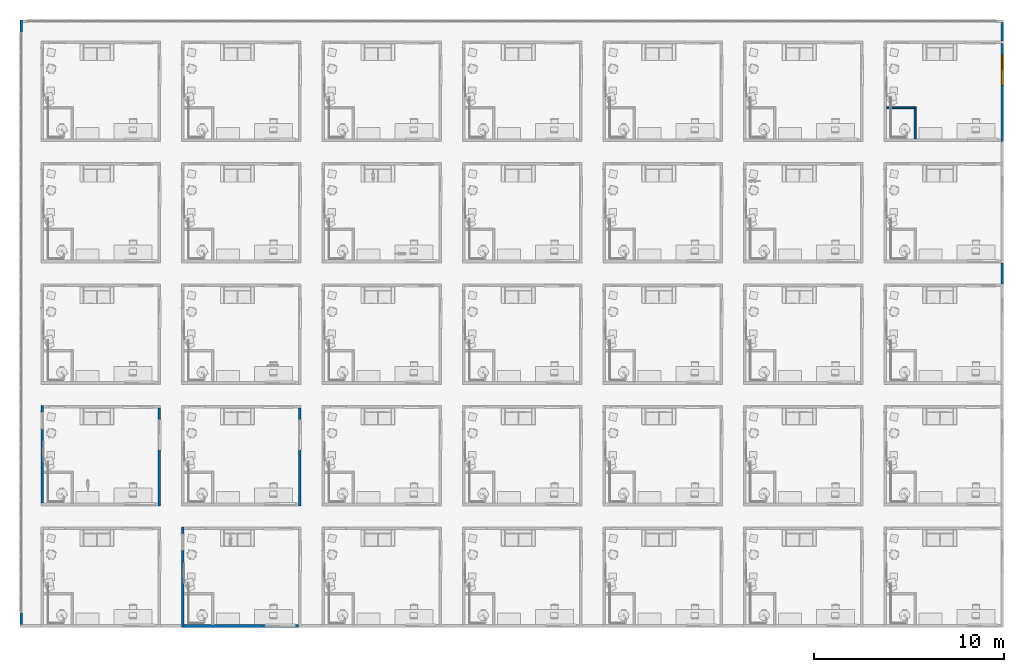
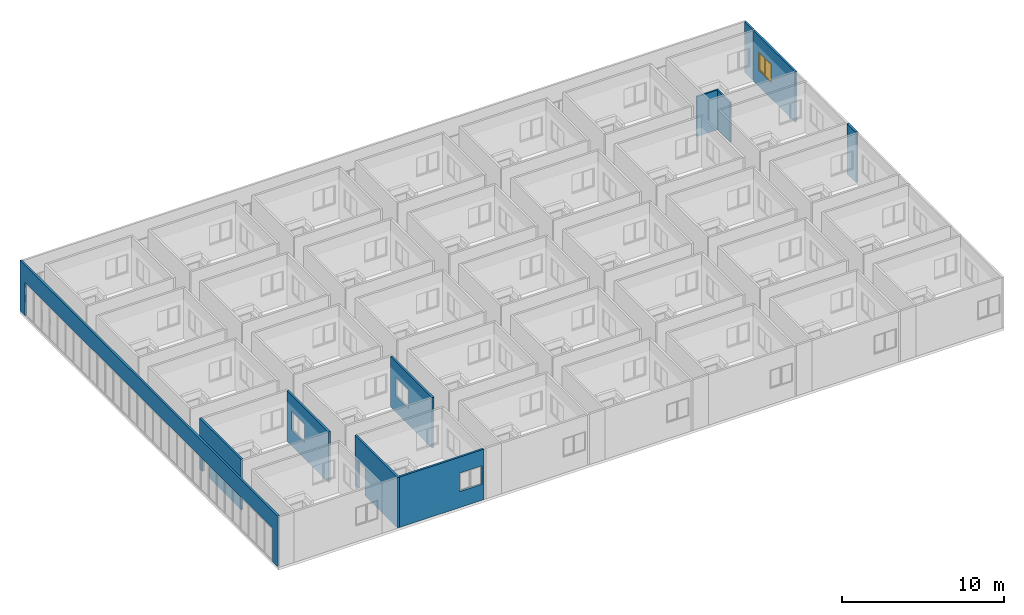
# One storey, part 11 of 71: 11 walls, 1 window, 7 openings.
"""IFC4 building model written with IfcOpenShell, lengths in centimetres."""

from ifc_helpers import new_model, entity, si_unit, converted_unit, derived_unit, direction, frame, origin, place, context, subcontext, project, spatial, indexed_curve, outline, extrude, polygons, source, transform, mapped, material, constituent, constituent_set, type_object, type_shapes, element, fill, save


model = new_model("IFC4")

# Units and contexts
model_context = context("Model", 3, precision=0.001, world=origin(), true_north=direction((6.123233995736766e-17, 1.0)))
body_context = subcontext(model_context, "Body", "Model", "MODEL_VIEW")
ifc_project = project(units=[si_unit("LENGTHUNIT", "METRE", prefix="CENTI"), si_unit("AREAUNIT", "SQUARE_METRE"), si_unit("VOLUMEUNIT", "CUBIC_METRE"), derived_unit("THERMALTRANSMITTANCEUNIT", [(si_unit("MASSUNIT", "GRAM", prefix="KILO"), 1), (si_unit("THERMODYNAMICTEMPERATUREUNIT", "KELVIN"), -1), (si_unit("TIMEUNIT", "SECOND"), -3)]), converted_unit("PLANEANGLEUNIT", "DEGREE", entity("IfcPlaneAngleMeasure", 0.017453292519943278), si_unit("PLANEANGLEUNIT", "RADIAN"), dimensions=[0, 0, 0, 0, 0, 0, 0]), derived_unit("MASSDENSITYUNIT", [(si_unit("MASSUNIT", "GRAM", prefix="KILO"), 1), (si_unit("LENGTHUNIT", "METRE"), -3)]), derived_unit("VAPORPERMEABILITYUNIT", [(si_unit("LENGTHUNIT", "METRE"), -1), (si_unit("TIMEUNIT", "SECOND"), 1)]), derived_unit("USERDEFINED", [(si_unit("MASSUNIT", "GRAM", prefix="KILO"), 1), (si_unit("TIMEUNIT", "SECOND"), -3), (si_unit("LENGTHUNIT", "METRE"), 3), (si_unit("ELECTRICCURRENTUNIT", "AMPERE"), -2)]), derived_unit("SPECIFICHEATCAPACITYUNIT", [(si_unit("THERMODYNAMICTEMPERATUREUNIT", "KELVIN"), -1), (si_unit("LENGTHUNIT", "METRE"), 2), (si_unit("TIMEUNIT", "SECOND"), -2)]), derived_unit("THERMALCONDUCTANCEUNIT", [(si_unit("MASSUNIT", "GRAM", prefix="KILO"), 1), (si_unit("THERMODYNAMICTEMPERATUREUNIT", "KELVIN"), -1), (si_unit("TIMEUNIT", "SECOND"), -3), (si_unit("LENGTHUNIT", "METRE"), 1)]), si_unit("PRESSUREUNIT", "PASCAL"), derived_unit("MODULUSOFELASTICITYUNIT", [(si_unit("MASSUNIT", "GRAM", prefix="KILO"), 1), (si_unit("LENGTHUNIT", "METRE"), -1), (si_unit("TIMEUNIT", "SECOND"), -2)]), derived_unit("THERMALEXPANSIONCOEFFICIENTUNIT", [(si_unit("THERMODYNAMICTEMPERATUREUNIT", "KELVIN"), -1)])], contexts=[model_context])

# Site, building, storey
site_placement = place(None, origin())
site = spatial("IfcSite", under=ifc_project, at=site_placement, Name="Default", CompositionType="ELEMENT")
building_placement = place(site_placement, origin())
building = spatial("IfcBuilding", under=site, at=building_placement, Name="IDS Escape Game Building", CompositionType="ELEMENT")
storey_placement = place(building_placement, frame((0.0, 0.0, 1200.0)))
storey = spatial("IfcBuildingStorey", under=building, at=storey_placement, Name="03_Third Floor", CompositionType="ELEMENT", Elevation=1200.0)

# Wall, opening
ifc_material_1 = material(Name="ARC_FME.g2_Fg2 Masonry_00_gen_BERSnl", Category="g - klei")
wall_type_1 = type_object("IfcWallType", Name="Basic Wall:ARC_22.10_WA_LB_SB14_gen_BERSnl", PredefinedType="STANDARD")
wall_1_placement = place(storey_placement, frame((745.0, 6.0, 0.0)))
wall_1 = element("IfcWall", 1, at=wall_1_placement, inside=storey, type_object=wall_type_1, material=ifc_material_1, Name="Basic Wall:ARC_22.10_WA_LB_SB14_gen_BERSnl", ObjectType="Basic Wall:ARC_22.10_WA_LB_SB14_gen_BERSnl", PredefinedType="NOTDEFINED", context=body_context, shape_type="Tessellation", body=[
    polygons([(0.0, -7.000000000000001, 0.0), (599.9999999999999, -7.000000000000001, 0.0), (599.9999999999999, -7.000000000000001, 380.0), (0.0, -7.000000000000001, 380.0), (424.99999999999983, -7.000000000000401, 120.00000000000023), (424.99999999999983, -7.000000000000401, 260.0), (584.9999999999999, -7.000000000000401, 260.0), (584.9999999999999, -7.0000000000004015, 120.00000000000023), (425.00000000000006, 6.999999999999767, 260.00000000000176), (424.99999999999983, 6.999999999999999, 120.00000000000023), (584.9999999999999, 6.999999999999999, 120.00000000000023), (584.9999999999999, 6.999999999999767, 260.00000000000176), (0.0, 6.999999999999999, 0.0), (0.0, 6.999999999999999, 380.0), (599.9999999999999, 6.999999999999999, 380.0), (599.9999999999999, 6.999999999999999, 0.0), (155.00000000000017, 6.999999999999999, 0.0), (145.00000000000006, 6.999999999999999, 0.0)], [[[1, 2, 3, 4], [5, 6, 7, 8]], [[13, 14, 15, 16, 17, 18], [9, 10, 11, 12]], [[2, 1, 13, 18, 17, 16]], [[4, 3, 15, 14]], [[8, 11, 10, 5]], [[6, 5, 10, 9]], [[11, 8, 7, 12]], [[6, 9, 12, 7]], [[1, 4, 14, 13]], [[3, 2, 16, 15]]], closed=True),
])
opening_1_placement = place(wall_1_placement, frame((-745.0, -6.0, 120.0)))
element("IfcOpeningElement", 2, at=opening_1_placement, cuts=wall_1, Name="Basic Wall:ARC_22.10_WA_LB_SB14_gen_BERSnl", PredefinedType="OPENING", context=body_context, shape_type="Tessellation", body=[
    polygons([(1170.0, -1.000000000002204, 2.2737367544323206e-13), (1170.0, -1.000000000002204, -1.0), (1170.0, -6.000000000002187, -1.0), (1170.0, -6.000000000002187, 2.2737367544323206e-13), (1330.0, -1.0000000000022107, 2.2737367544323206e-13), (1330.0, -6.000000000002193, 2.2737367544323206e-13), (1330.0, -6.000000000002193, -1.0), (1330.0, -1.0000000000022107, -1.0), (1175.0, -1.0000000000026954, 0.0), (1324.9999999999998, -1.0000000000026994, 0.0), (1324.9999999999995, -6.000000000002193, 2.2737367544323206e-13), (1324.9999999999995, -6.000000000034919, 135.0), (1175.0, -6.000000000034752, 135.0), (1175.0, -6.000000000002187, 2.2737367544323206e-13), (1170.0, 18.03682513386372, 2.2737367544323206e-13), (1170.0, -1.0000000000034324, 2.2737367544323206e-13), (1170.0, -1.0000000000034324, 140.00000000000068), (1170.0, 18.03682513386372, 140.00000000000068), (1330.0, 18.03682513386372, 140.0), (1330.0, -1.0000000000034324, 140.0), (1330.0, -1.000000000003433, 2.2737367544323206e-13), (1330.0, 18.03682513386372, 2.2737367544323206e-13), (1175.0, -1.000000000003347, 135.0), (1324.9999999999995, -1.0000000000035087, 135.0)], [[[1, 2, 3, 4]], [[5, 6, 7, 8]], [[1, 9, 10, 5, 8, 2]], [[2, 8, 7, 3]], [[3, 7, 6, 11, 12, 13, 14, 4]], [[4, 14, 9, 1]], [[15, 16, 17, 18]], [[19, 20, 21, 22]], [[18, 17, 20, 19]], [[18, 19, 22, 15]], [[17, 16, 9, 23, 24, 10, 21, 20]], [[22, 21, 10, 9, 16, 15]], [[11, 10, 24, 12]], [[13, 23, 9, 14]], [[12, 24, 23, 13]], [[5, 10, 11, 6]]], closed=True),
])

wall_2_placement = place(storey_placement, frame((738.0, 527.0, 0.0), z_axis=(0.0, 0.0, 1.0), x_axis=(0.0, -1.0, 0.0)))
wall_2 = element("IfcWall", 3, at=wall_2_placement, inside=storey, type_object=wall_type_1, material=ifc_material_1, Name="Basic Wall:ARC_22.10_WA_LB_SB14_gen_BERSnl", ObjectType="Basic Wall:ARC_22.10_WA_LB_SB14_gen_BERSnl", PredefinedType="NOTDEFINED", context=body_context, shape_type="Tessellation", body=[
    polygons([(527.9999999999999, -6.9999999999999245, 380.0), (514.0000000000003, -6.9999999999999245, 380.0), (0.0, -6.9999999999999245, 380.0), (0.0, -6.9999999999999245, 0.0), (35.99999999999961, -6.9999999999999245, 0.0), (35.99999999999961, -6.9999999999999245, 215.00000000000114), (125.99999999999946, -6.9999999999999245, 215.00000000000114), (125.99999999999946, -6.9999999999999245, 0.0), (514.0000000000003, -6.9999999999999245, 0.0), (527.9999999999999, -6.9999999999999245, 0.0), (0.0, 7.000000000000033, 380.0), (13.999999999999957, 7.000000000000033, 380.0), (513.9999999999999, 7.000000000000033, 380.0), (527.9999999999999, 7.000000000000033, 380.0), (527.9999999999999, 7.000000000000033, 0.0), (513.9999999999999, 7.000000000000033, 0.0), (355.99999999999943, 7.000000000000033, 0.0), (345.99999999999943, 7.000000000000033, 0.0), (125.99999999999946, 7.000000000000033, 0.0), (125.99999999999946, 7.000000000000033, 215.00000000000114), (35.99999999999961, 7.000000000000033, 215.00000000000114), (35.99999999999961, 7.000000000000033, 0.0), (13.999999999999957, 7.000000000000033, 0.0), (0.0, 7.000000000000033, 0.0)], [[[1, 2, 3, 4, 5, 6, 7, 8, 9, 10]], [[11, 12, 13, 14, 15, 16, 17, 18, 19, 20, 21, 22, 23, 24]], [[4, 24, 23, 22, 5]], [[3, 2, 1, 14, 13, 12, 11]], [[21, 6, 5, 22]], [[7, 20, 19, 8]], [[6, 21, 20, 7]], [[4, 3, 11, 24]], [[1, 10, 15, 14]], [[15, 10, 9, 8, 19, 18, 17, 16]]], closed=True),
])
opening_2_placement = place(wall_2_placement, frame((527.0, -738.0, 0.0), z_axis=(0.0, 0.0, 1.0), x_axis=(0.0, 1.0, 0.0)))
element("IfcOpeningElement", 4, at=opening_2_placement, cuts=wall_2, Name="Basic Wall:ARC_22.10_WA_LB_SB14_gen_BERSnl", PredefinedType="OPENING", context=body_context, shape_type="SweptSolid", body=[
    extrude(outline(indexed_curve([(-137.49999999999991, -44.99999999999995), (137.49999999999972, -44.99999999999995), (137.49999999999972, 44.99999999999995), (-137.49999999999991, 45.0), (-137.49999999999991, -44.99999999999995)], self_intersect=False)), frame((648.0, 446.0, 77.50000000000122), z_axis=(1.0, 0.0, 0.0), x_axis=(0.0, 0.0, 1.0)), (0.0, 0.0, 1.0), 165.99999999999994),
])

wall_3_placement = place(storey_placement, frame((0.0, 1165.0, 0.0), z_axis=(0.0, 0.0, 1.0), x_axis=(0.0, -1.0, 0.0)))
wall_3 = element("IfcWall", 5, at=wall_3_placement, inside=storey, type_object=wall_type_1, material=ifc_material_1, Name="Basic Wall:ARC_22.10_WA_LB_SB14_gen_BERSnl", ObjectType="Basic Wall:ARC_22.10_WA_LB_SB14_gen_BERSnl", PredefinedType="NOTDEFINED", context=body_context, shape_type="Tessellation", body=[
    polygons([(514.0000000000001, -7.0, 380.0), (0.0, -7.0, 380.0), (0.0, -7.0, 0.0), (35.99999999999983, -7.0, 0.0), (35.99999999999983, -7.000000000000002, 215.00000000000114), (125.99999999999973, -7.000000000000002, 215.00000000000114), (125.99999999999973, -7.0, 0.0), (514.0000000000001, -7.0, 0.0), (0.0, 7.0, 380.0), (14.000000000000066, 7.0, 380.0), (514.0000000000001, 7.0, 380.0), (514.0000000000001, 7.0, 0.0), (355.99999999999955, 7.0, 0.0), (345.9999999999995, 7.0, 0.0), (125.99999999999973, 7.0, 0.0), (125.99999999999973, 6.9999999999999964, 215.00000000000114), (35.99999999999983, 7.000000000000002, 215.00000000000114), (35.99999999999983, 7.0, 0.0), (14.000000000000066, 7.0, 0.0), (0.0, 7.0, 0.0)], [[[1, 2, 3, 4, 5, 6, 7, 8]], [[9, 10, 11, 12, 13, 14, 15, 16, 17, 18, 19, 20]], [[3, 20, 19, 18, 4]], [[2, 1, 11, 10, 9]], [[17, 5, 4, 18]], [[6, 16, 15, 7]], [[5, 17, 16, 6]], [[3, 2, 9, 20]], [[1, 8, 12, 11]], [[12, 8, 7, 15, 14, 13]]], closed=True),
])
opening_3_placement = place(wall_3_placement, frame((1165.0, 0.0, 0.0), z_axis=(0.0, 0.0, 1.0), x_axis=(0.0, 1.0, 0.0)))
element("IfcOpeningElement", 6, at=opening_3_placement, cuts=wall_3, Name="Basic Wall:ARC_22.10_WA_LB_SB14_gen_BERSnl", PredefinedType="OPENING", context=body_context, shape_type="SweptSolid", body=[
    extrude(outline(indexed_curve([(-137.49999999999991, -44.99999999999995), (137.49999999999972, -44.99999999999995), (137.49999999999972, 44.99999999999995), (-137.49999999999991, 44.99999999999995), (-137.49999999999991, -44.99999999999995)], self_intersect=False)), frame((-90.0, 1084.0, 77.50000000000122), z_axis=(1.0, 0.0, 0.0), x_axis=(0.0, 0.0, 1.0)), (0.0, 0.0, 1.0), 166.0),
])

wall_4_placement = place(storey_placement, frame((614.0, 637.0, 0.0), z_axis=(0.0, 0.0, 1.0), x_axis=(0.0, 1.0, 0.0)))
wall_4 = element("IfcWall", 7, at=wall_4_placement, inside=storey, type_object=wall_type_1, material=ifc_material_1, Name="Basic Wall:ARC_22.10_WA_LB_SB14_gen_BERSnl", ObjectType="Basic Wall:ARC_22.10_WA_LB_SB14_gen_BERSnl", PredefinedType="NOTDEFINED", context=body_context, shape_type="Tessellation", body=[
    polygons([(0.0, -6.9999999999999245, 0.0), (514.0, -6.9999999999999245, 0.0), (514.0, -6.9999999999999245, 380.0), (0.0, -6.9999999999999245, 380.0), (453.99999999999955, -6.999999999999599, 260.00000000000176), (453.9999999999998, -6.999999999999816, 120.00000000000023), (293.9999999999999, -6.9999999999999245, 120.00000000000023), (293.9999999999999, -6.999999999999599, 260.00000000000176), (453.9999999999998, 7.000000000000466, 120.00000000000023), (453.9999999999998, 7.000000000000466, 260.0), (293.9999999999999, 7.000000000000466, 260.0), (293.9999999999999, 7.000000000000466, 120.00000000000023), (0.0, 7.000000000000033, 0.0), (0.0, 7.000000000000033, 380.0), (13.999999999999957, 7.000000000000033, 380.0), (514.0, 7.000000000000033, 380.0), (514.0, 7.000000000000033, 0.0), (13.999999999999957, 7.000000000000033, 0.0)], [[[1, 2, 3, 4], [5, 6, 7, 8]], [[13, 14, 15, 16, 17, 18], [9, 10, 11, 12]], [[2, 1, 13, 18, 17]], [[4, 3, 16, 15, 14]], [[10, 9, 6, 5]], [[7, 12, 11, 8]], [[10, 5, 8, 11]], [[12, 7, 6, 9]], [[1, 4, 14, 13]], [[3, 2, 17, 16]]], closed=True),
])
opening_4_placement = place(wall_4_placement, frame((-637.0, 614.0, 120.0), z_axis=(0.0, 0.0, 1.0), x_axis=(0.0, -1.0, 0.0)))
element("IfcOpeningElement", 8, at=opening_4_placement, cuts=wall_4, Name="Basic Wall:ARC_22.10_WA_LB_SB14_gen_BERSnl", PredefinedType="OPENING", context=body_context, shape_type="Tessellation", body=[
    polygons([(607.0000000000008, 1091.0, 2.2737367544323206e-13), (607.0000000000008, 1091.0, -1.0), (602.0000000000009, 1091.0, -1.0), (602.0000000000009, 1091.0, 2.2737367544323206e-13), (607.0000000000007, 931.0, 2.2737367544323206e-13), (602.0000000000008, 931.0, 2.2737367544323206e-13), (602.0000000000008, 931.0, -1.0), (607.0000000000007, 931.0, -1.0), (607.0000000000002, 1086.0, 0.0), (607.0000000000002, 936.0, 0.0), (602.0000000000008, 936.0, 2.2737367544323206e-13), (601.999999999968, 936.0, 135.0), (601.9999999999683, 1086.0, 135.0), (602.0000000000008, 1086.0, 2.2737367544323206e-13), (626.0368251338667, 1090.9999999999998, 2.2737367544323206e-13), (606.9999999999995, 1091.0, 2.2737367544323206e-13), (606.9999999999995, 1091.0, 140.00000000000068), (626.0368251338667, 1091.0, 140.00000000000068), (626.0368251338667, 931.0, 140.0), (606.9999999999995, 931.0, 140.0), (606.9999999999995, 931.0, 2.2737367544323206e-13), (626.0368251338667, 931.0, 2.2737367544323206e-13), (606.9999999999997, 1086.0, 135.0), (606.9999999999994, 936.0, 135.0)], [[[1, 2, 3, 4]], [[5, 6, 7, 8]], [[1, 9, 10, 5, 8, 2]], [[2, 8, 7, 3]], [[3, 7, 6, 11, 12, 13, 14, 4]], [[4, 14, 9, 1]], [[15, 16, 17, 18]], [[19, 20, 21, 22]], [[18, 17, 20, 19]], [[18, 19, 22, 15]], [[17, 16, 9, 23, 24, 10, 21, 20]], [[22, 21, 10, 9, 16, 15]], [[11, 10, 24, 12]], [[13, 23, 9, 14]], [[12, 24, 23, 13]], [[5, 10, 11, 6]]], closed=True),
])

wall_5_placement = place(storey_placement, frame((1352.0, 637.0, 0.0), z_axis=(0.0, 0.0, 1.0), x_axis=(0.0, 1.0, 0.0)))
wall_5 = element("IfcWall", 9, at=wall_5_placement, inside=storey, type_object=wall_type_1, material=ifc_material_1, Name="Basic Wall:ARC_22.10_WA_LB_SB14_gen_BERSnl", ObjectType="Basic Wall:ARC_22.10_WA_LB_SB14_gen_BERSnl", PredefinedType="NOTDEFINED", context=body_context, shape_type="Tessellation", body=[
    polygons([(0.0, -7.000000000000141, 0.0), (514.0, -7.000000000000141, 0.0), (514.0, -7.000000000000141, 380.0), (0.0, -7.000000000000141, 380.0), (453.9999999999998, -6.9999999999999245, 260.00000000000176), (454.0, -7.000000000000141, 120.00000000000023), (293.9999999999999, -7.000000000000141, 120.00000000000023), (294.00000000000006, -6.9999999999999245, 260.00000000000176), (454.0, 7.000000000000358, 120.00000000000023), (454.0, 7.000000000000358, 260.0), (294.00000000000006, 7.000000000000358, 260.0), (293.9999999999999, 7.000000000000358, 120.00000000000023), (0.0, 6.9999999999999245, 0.0), (0.0, 6.9999999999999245, 380.0), (13.999999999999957, 6.9999999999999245, 380.0), (514.0, 6.9999999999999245, 380.0), (514.0, 6.9999999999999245, 0.0), (13.999999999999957, 6.9999999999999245, 0.0)], [[[1, 2, 3, 4], [5, 6, 7, 8]], [[13, 14, 15, 16, 17, 18], [9, 10, 11, 12]], [[2, 1, 13, 18, 17]], [[4, 3, 16, 15, 14]], [[10, 9, 6, 5]], [[7, 12, 11, 8]], [[10, 5, 8, 11]], [[12, 7, 6, 9]], [[1, 4, 14, 13]], [[3, 2, 17, 16]]], closed=True),
])
opening_5_placement = place(wall_5_placement, frame((-637.0, 1352.0, 120.0), z_axis=(0.0, 0.0, 1.0), x_axis=(0.0, -1.0, 0.0)))
element("IfcOpeningElement", 10, at=opening_5_placement, cuts=wall_5, Name="Basic Wall:ARC_22.10_WA_LB_SB14_gen_BERSnl", PredefinedType="OPENING", context=body_context, shape_type="Tessellation", body=[
    polygons([(1345.0000000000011, 1090.9999999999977, 2.2737367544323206e-13), (1345.0000000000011, 1090.9999999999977, -1.0), (1340.0000000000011, 1090.9999999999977, -1.0), (1340.0000000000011, 1090.9999999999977, 2.2737367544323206e-13), (1345.0000000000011, 930.9999999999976, 2.2737367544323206e-13), (1340.0000000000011, 930.9999999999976, 2.2737367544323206e-13), (1340.0000000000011, 930.9999999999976, -1.0), (1345.0000000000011, 930.9999999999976, -1.0), (1345.0000000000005, 1085.9999999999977, 0.0), (1345.0000000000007, 935.999999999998, 0.0), (1340.0000000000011, 935.9999999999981, 2.2737367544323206e-13), (1339.9999999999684, 935.9999999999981, 135.0), (1339.9999999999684, 1085.9999999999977, 135.0), (1340.0000000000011, 1085.9999999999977, 2.2737367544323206e-13), (1364.0368251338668, 1090.9999999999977, 2.2737367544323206e-13), (1344.9999999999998, 1090.9999999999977, 2.2737367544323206e-13), (1344.9999999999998, 1090.9999999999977, 140.00000000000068), (1364.0368251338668, 1090.9999999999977, 140.00000000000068), (1364.0368251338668, 930.9999999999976, 140.0), (1344.9999999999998, 930.9999999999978, 140.0), (1344.9999999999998, 930.9999999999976, 2.2737367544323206e-13), (1364.0368251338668, 930.9999999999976, 2.2737367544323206e-13), (1344.9999999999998, 1085.9999999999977, 135.0), (1344.9999999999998, 935.9999999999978, 135.0)], [[[1, 2, 3, 4]], [[5, 6, 7, 8]], [[1, 9, 10, 5, 8, 2]], [[2, 8, 7, 3]], [[3, 7, 6, 11, 12, 13, 14, 4]], [[4, 14, 9, 1]], [[15, 16, 17, 18]], [[19, 20, 21, 22]], [[18, 17, 20, 19]], [[18, 19, 22, 15]], [[17, 16, 9, 23, 24, 10, 21, 20]], [[22, 21, 10, 9, 16, 15]], [[11, 10, 24, 12]], [[13, 23, 9, 14]], [[12, 24, 23, 13]], [[5, 10, 11, 6]]], closed=True),
])

# Wall, opening, window
wall_6_placement = place(storey_placement, frame((5042.0, 2551.0, 0.0), z_axis=(0.0, 0.0, 1.0), x_axis=(0.0, 1.0, 0.0)))
wall_6 = element("IfcWall", 11, at=wall_6_placement, inside=storey, type_object=wall_type_1, material=ifc_material_1, Name="Basic Wall:ARC_22.10_WA_LB_SB14_gen_BERSnl", ObjectType="Basic Wall:ARC_22.10_WA_LB_SB14_gen_BERSnl", PredefinedType="NOTDEFINED", context=body_context, shape_type="Tessellation", body=[
    polygons([(0.0, -7.000000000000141, 0.0), (513.9999999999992, -7.000000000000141, 0.0), (513.9999999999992, -7.000000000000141, 380.0), (0.0, -7.000000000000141, 380.0), (453.9999999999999, -7.000000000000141, 260.00000000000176), (453.9999999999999, -7.000000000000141, 120.00000000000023), (293.9999999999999, -7.000000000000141, 120.00000000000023), (293.9999999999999, -7.000000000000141, 260.00000000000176), (453.9999999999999, 7.000000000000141, 120.00000000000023), (453.9999999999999, 7.000000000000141, 260.0), (293.9999999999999, 7.000000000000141, 260.0), (293.9999999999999, 7.000000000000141, 120.00000000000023), (0.0, 7.000000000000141, 0.0), (0.0, 7.000000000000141, 380.0), (13.999999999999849, 7.000000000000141, 380.0), (513.9999999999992, 7.000000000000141, 380.0), (513.9999999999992, 7.000000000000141, 0.0), (13.999999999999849, 7.000000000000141, 0.0)], [[[1, 2, 3, 4], [5, 6, 7, 8]], [[13, 14, 15, 16, 17, 18], [9, 10, 11, 12]], [[2, 1, 13, 18, 17]], [[4, 3, 16, 15, 14]], [[10, 9, 6, 5]], [[7, 12, 11, 8]], [[10, 5, 8, 11]], [[12, 7, 6, 9]], [[1, 4, 14, 13]], [[3, 2, 17, 16]]], closed=True),
])
opening_6_placement = place(wall_6_placement, frame((-2551.0, 5042.0, 120.0), z_axis=(0.0, 0.0, 1.0), x_axis=(0.0, -1.0, 0.0)))
opening_6 = element("IfcOpeningElement", 12, at=opening_6_placement, cuts=wall_6, Name="Basic Wall:ARC_22.10_WA_LB_SB14_gen_BERSnl", PredefinedType="OPENING", context=body_context, shape_type="Tessellation", body=[
    polygons([(5035.0, 3005.000000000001, 2.2737367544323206e-13), (5035.0, 3005.000000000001, -1.0), (5030.0, 3005.000000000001, -1.0), (5030.0, 3005.000000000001, 2.2737367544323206e-13), (5035.0, 2845.000000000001, 2.2737367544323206e-13), (5030.0, 2845.000000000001, 2.2737367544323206e-13), (5030.0, 2845.000000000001, -1.0), (5035.0, 2845.000000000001, -1.0), (5034.999999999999, 3000.000000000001, 0.0), (5035.0, 2850.000000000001, 0.0), (5030.0, 2850.0000000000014, 2.2737367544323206e-13), (5029.999999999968, 2850.0000000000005, 135.0), (5029.999999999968, 3000.0000000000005, 135.0), (5030.0, 3000.000000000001, 2.2737367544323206e-13), (5054.036825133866, 3005.000000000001, 2.2737367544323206e-13), (5034.999999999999, 3005.000000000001, 2.2737367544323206e-13), (5034.999999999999, 3005.000000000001, 140.00000000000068), (5054.036825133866, 3005.000000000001, 140.00000000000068), (5054.036825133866, 2845.000000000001, 140.0), (5034.999999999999, 2845.000000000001, 140.0), (5034.999999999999, 2845.000000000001, 2.2737367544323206e-13), (5054.036825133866, 2845.000000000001, 2.2737367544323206e-13), (5034.999999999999, 3000.0000000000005, 135.0), (5034.999999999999, 2850.0000000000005, 135.0)], [[[1, 2, 3, 4]], [[5, 6, 7, 8]], [[1, 9, 10, 5, 8, 2]], [[2, 8, 7, 3]], [[3, 7, 6, 11, 12, 13, 14, 4]], [[4, 14, 9, 1]], [[15, 16, 17, 18]], [[19, 20, 21, 22]], [[18, 17, 20, 19]], [[18, 19, 22, 15]], [[17, 16, 9, 23, 24, 10, 21, 20]], [[22, 21, 10, 9, 16, 15]], [[11, 10, 24, 12]], [[13, 23, 9, 14]], [[12, 24, 23, 13]], [[5, 10, 11, 6]]], closed=True),
])
ifc_material_2 = material(Name="<Unnamed>")
ifc_constituent_1 = constituent(ifc_material_2, Name="<Unnamed>", fraction=0.0)
ifc_material_3 = material(Name="ARC_FME.o1_glass_00_gen_BERSnl", Category="o - glas")
ifc_constituent_2 = constituent(ifc_material_3, Name="ARC_FME.o1_glass_00_gen_BERSnl", Category="o - glas", fraction=1.0)
ifc_constituent_set_1 = constituent_set(constituents=[ifc_constituent_1, ifc_constituent_2])
ifc_constituent_3 = constituent(ifc_material_2, Name="BE Tablet", fraction=0.0)
ifc_constituent_4 = constituent(ifc_material_2, Name="Frame/Mullion", fraction=0.0)
ifc_constituent_5 = constituent(ifc_material_3, Name="Glass", Category="o - glas", fraction=1.0)
ifc_constituent_set_2 = constituent_set(constituents=[ifc_constituent_3, ifc_constituent_4, ifc_constituent_5])
window_type = type_object("IfcWindowType", Name="ARC_31_WI_WB_Dubbel Raam-Recht-Vast en Draaiend_gen_BERSnl:Links-Draaiend / Rechts-Draaiend", PartitioningType="NOTDEFINED", PredefinedType="WINDOW", material=ifc_constituent_set_2)
shared_shape = source(origin(), body_context, "Body", "Tessellation", [
    extrude(outline(indexed_curve([(-80.00000000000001, -4.999999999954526), (80.00000000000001, -4.999999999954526), (80.00000000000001, 4.999999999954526), (-80.00000000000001, 4.999999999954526), (-80.00000000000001, -4.999999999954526)], self_intersect=False)), frame((80.0, 7.036825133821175, 1.0), z_axis=(0.0, 0.0, 1.0), x_axis=(-1.0, 0.0, 0.0)), (0.0, 0.0, 1.0), 2.000000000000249),
    extrude(outline(indexed_curve([(-2.9999999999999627, -3.000000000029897), (-7.656209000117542e-14, -3.000000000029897), (-7.064016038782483e-14, 5.979964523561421e-11), (3.0000000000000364, 5.978991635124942e-11), (3.0000000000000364, 2.9999999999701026), (-2.9999999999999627, 2.9999999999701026), (-2.9999999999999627, -3.000000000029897)], self_intersect=False)), frame((80.0, 15.03682513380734, 7.0)), (0.0, 0.0, 1.0), 128.00000000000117),
    extrude(outline(indexed_curve([(-35.499999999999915, -1.2000000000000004), (35.499999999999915, -1.2000000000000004), (35.49999999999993, 1.2), (-35.499999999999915, 1.2), (-35.499999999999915, -1.2000000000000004)], self_intersect=False)), frame((41.50000000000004, 15.036825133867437, 7.0), z_axis=(0.0, 0.0, 1.0), x_axis=(-1.0, 0.0, 0.0)), (0.0, 0.0, 1.0), 128.000000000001),
    extrude(outline(indexed_curve([(-67.00000000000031, -38.500000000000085), (67.00000000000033, -38.5000000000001), (67.00000000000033, 38.50000000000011), (-67.00000000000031, 38.50000000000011), (-67.00000000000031, -38.500000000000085)], self_intersect=False), holes=[indexed_curve([(61.00000000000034, -32.50000000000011), (-61.00000000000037, -32.500000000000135), (-61.00000000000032, 32.50000000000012), (61.00000000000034, 32.50000000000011), (61.00000000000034, -32.50000000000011)], self_intersect=False)]), frame((118.5, 9.03682513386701, 71.0), z_axis=(0.0, 1.0, 0.0), x_axis=(0.0, 0.0, -1.0)), (0.0, 0.0, 1.0), 6.0),
    extrude(outline(indexed_curve([(-32.500000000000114, -1.2000000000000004), (32.500000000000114, -1.2000000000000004), (32.500000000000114, 1.2000000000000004), (-32.500000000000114, 1.2000000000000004), (-32.500000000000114, -1.2000000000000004)], self_intersect=False)), frame((118.5, 12.036825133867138, 10.0), z_axis=(0.0, 0.0, 1.0), x_axis=(-1.0, 0.0, 0.0)), (0.0, 0.0, 1.0), 122.00000000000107),
    polygons([(160.00000000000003, 18.03682513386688, 141.00000000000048), (160.00000000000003, 18.03682513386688, 1.0000000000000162), (4.0607517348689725e-14, 18.036825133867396, 1.0000000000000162), (4.0607517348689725e-14, 18.036825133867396, 141.00000000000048), (6.000000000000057, 18.03682513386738, 135.00000000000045), (6.000000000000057, 18.03682513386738, 7.000000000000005), (76.99999999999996, 18.03682513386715, 7.000000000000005), (154.00000000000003, 18.0368251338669, 7.000000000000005), (154.00000000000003, 18.0368251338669, 135.00000000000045), (76.99999999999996, 18.03682513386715, 135.00000000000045), (160.0, 12.03682513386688, 141.00000000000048), (160.0, 12.03682513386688, 1.0000000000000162), (2.7071678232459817e-14, 12.036825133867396, 1.0000000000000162), (2.7071678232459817e-14, 12.036825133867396, 141.00000000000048), (6.000000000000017, 12.036825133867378, 135.00000000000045), (6.000000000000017, 12.036825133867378, 7.000000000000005), (76.99999999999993, 12.036825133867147, 7.000000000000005), (79.99999999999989, 12.036825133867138, 7.000000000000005), (79.9999999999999, 15.036825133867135, 7.000000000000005), (154.00000000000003, 15.0368251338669, 7.000000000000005), (154.00000000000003, 15.036825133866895, 135.00000000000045), (76.99999999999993, 12.036825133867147, 135.00000000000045), (79.99999999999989, 12.036825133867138, 135.00000000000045), (79.99999999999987, 12.036825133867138, 138.00000000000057), (157.00000000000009, 12.036825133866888, 138.00000000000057), (157.00000000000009, 12.036825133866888, 3.9999999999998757), (79.99999999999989, 12.036825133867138, 3.9999999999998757), (157.0000000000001, 15.036825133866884, 3.9999999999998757), (157.0000000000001, 15.036825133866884, 138.00000000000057), (79.99999999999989, 15.036825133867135, 3.9999999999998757), (79.99999999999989, 15.036825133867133, 138.00000000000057), (79.99999999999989, 15.036825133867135, 135.00000000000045)], [[[1, 2, 3, 4], [5, 6, 7, 8, 9, 10]], [[2, 1, 11, 12]], [[3, 2, 12, 13]], [[4, 3, 13, 14]], [[6, 5, 15, 16]], [[6, 16, 17, 18, 19, 20, 8, 7]], [[9, 8, 20, 21]], [[11, 14, 13, 12], [16, 15, 22, 23, 24, 25, 26, 27, 18, 17]], [[28, 26, 25, 29]], [[30, 27, 26, 28]], [[31, 24, 23, 32]], [[30, 28, 29, 31, 32, 21, 20, 19]], [[1, 4, 14, 11]], [[15, 5, 10, 9, 21, 32, 23, 22]], [[24, 31, 29, 25]], [[27, 30, 19, 18]]], closed=True),
])
type_shapes(window_type, [shared_shape])
window_placement = place(opening_6_placement, frame((5054.036825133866, 2845.0, -1.0), z_axis=(0.0, 0.0, 1.0), x_axis=(0.0, 1.0, 0.0)))
window = element("IfcWindow", 13, at=window_placement, inside=storey, type_object=window_type, material=ifc_constituent_set_1, Name="ARC_31_WI_WB_Dubbel Raam-Recht-Vast en Draaiend_gen_BERSnl:Links-Draaiend / Rechts-Draaiend", ObjectType="ARC_31_WI_WB_Dubbel Raam-Recht-Vast en Draaiend_gen_BERSnl:Links-Draaiend / Rechts-Draaiend", OverallHeight=140.00000000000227, OverallWidth=160.0000000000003, PartitioningType="NOTDEFINED", PredefinedType="WINDOW", context=body_context, shape_type="MappedRepresentation", body=[
    mapped(shared_shape, transform((0.0, 0.0, 0.0), scale=1.0)),
])
fill(opening_6, window)

# Wall, opening
wall_7_placement = place(storey_placement, frame((-110.0, 13.0, 0.0), z_axis=(0.0, 0.0, 1.0), x_axis=(0.0, 1.0, 0.0)))
wall_7 = element("IfcWall", 14, at=wall_7_placement, inside=storey, type_object=wall_type_1, material=ifc_material_1, Name="Basic Wall:ARC_22.10_WA_LB_SB14_gen_BERSnl", ObjectType="Basic Wall:ARC_22.10_WA_LB_SB14_gen_BERSnl", PredefinedType="NOTDEFINED", context=body_context, shape_type="Tessellation", body=[
    polygons([(3176.0, -6.999999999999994, 380.0), (3161.9999999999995, -6.999999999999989, 380.0), (4.737543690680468e-14, -6.999999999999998, 380.0), (0.0, -6.999999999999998, 0.0), (61.999999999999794, -6.999999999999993, 0.0), (61.999999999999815, -6.999999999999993, 250.0000000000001), (3112.0, -6.9999999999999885, 250.0000000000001), (3112.0, -6.9999999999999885, 0.0), (3161.999999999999, -6.999999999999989, 0.0), (3176.0, -6.999999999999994, 0.0), (2.1995738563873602e-14, 6.999999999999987, 380.0), (3176.0, 7.000000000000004, 380.0), (3176.0, 7.000000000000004, 0.0), (3112.0, 7.000000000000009, 0.0), (3111.9999999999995, 7.000000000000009, 250.0000000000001), (61.999999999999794, 7.000000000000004, 250.0000000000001), (61.99999999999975, 7.000000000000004, 0.0), (2.368771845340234e-14, 6.999999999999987, 0.0)], [[[1, 2, 3, 4, 5, 6, 7, 8, 9, 10]], [[11, 12, 13, 14, 15, 16, 17, 18]], [[4, 18, 17, 5]], [[3, 2, 1, 12, 11]], [[4, 3, 11, 18]], [[1, 10, 13, 12]], [[7, 15, 14, 8]], [[15, 7, 6, 16]], [[16, 6, 5, 17]], [[13, 10, 9, 8, 14]]], closed=True),
])
opening_7_placement = place(wall_7_placement, origin())
element("IfcOpeningElement", 15, at=opening_7_placement, cuts=wall_7, Name="Basic Wall:ARC_22.10_WA_LB_SB14_gen_BERSnl", PredefinedType="OPENING", context=body_context, shape_type="SweptSolid", body=[
    extrude(outline(indexed_curve([(-1525.0, -124.99999999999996), (1525.0, -124.99999999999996), (1525.0, 124.99999999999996), (-1525.0, 124.99999999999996), (-1525.0, -124.99999999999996)], self_intersect=False)), frame((1587.0, -22.23999999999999, 125.0), z_axis=(0.0, 1.0, 0.0), x_axis=(-1.0, 0.0, 0.0)), (0.0, 0.0, 1.0), 44.48),
])

# Walls
wall_8_placement = place(storey_placement, frame((5042.0, 3175.0, 0.0), z_axis=(0.0, 0.0, 1.0), x_axis=(0.0, -1.0, 0.0)))
element("IfcWall", 16, at=wall_8_placement, inside=storey, type_object=wall_type_1, material=ifc_material_1, Name="Basic Wall:ARC_22.10_WA_LB_SB14_gen_BERSnl", ObjectType="Basic Wall:ARC_22.10_WA_LB_SB14_gen_BERSnl", PredefinedType="NOTDEFINED", context=body_context, shape_type="SweptSolid", body=[
    extrude(outline(indexed_curve([(95.99999999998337, 7.000000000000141), (0.0, 7.000000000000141), (0.0, -7.000000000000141), (95.99999999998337, -7.000000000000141), (95.99999999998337, 7.000000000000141)], self_intersect=False)), origin(), (0.0, 0.0, 1.0), 380.0000000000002),
])
wall_9_placement = place(storey_placement, frame((5042.0, 1913.0, 0.0), z_axis=(0.0, 0.0, 1.0), x_axis=(0.0, -1.0, 0.0)))
element("IfcWall", 17, at=wall_9_placement, inside=storey, type_object=wall_type_1, material=ifc_material_1, Name="Basic Wall:ARC_22.10_WA_LB_SB14_gen_BERSnl", ObjectType="Basic Wall:ARC_22.10_WA_LB_SB14_gen_BERSnl", PredefinedType="NOTDEFINED", context=body_context, shape_type="SweptSolid", body=[
    extrude(outline(indexed_curve([(109.9999999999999, 7.000000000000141), (0.0, 7.000000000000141), (0.0, -7.000000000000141), (109.9999999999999, -7.000000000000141), (109.9999999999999, 7.000000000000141)], self_intersect=False)), origin(), (0.0, 0.0, 1.0), 380.0000000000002),
])
ifc_material_4 = material(Name="ARC_FME.r2_Plaster_white_gen_BERSnl", Category="r - klei, gips, magnesium en kunststof bindmiddelen")
wall_type_2 = type_object("IfcWallType", Name="Basic Wall:ARC_22.10_WA_LB_GPS10_gen_BERSnl", PredefinedType="STANDARD")
wall_10_placement = place(storey_placement, frame((4585.0, 2565.0, 0.0), z_axis=(0.0, 0.0, 1.0), x_axis=(0.0, 1.0, 0.0)))
element("IfcWall", 18, at=wall_10_placement, inside=storey, type_object=wall_type_2, material=ifc_material_4, Name="Basic Wall:ARC_22.10_WA_LB_GPS10_gen_BERSnl", ObjectType="Basic Wall:ARC_22.10_WA_LB_GPS10_gen_BERSnl", PredefinedType="NOTDEFINED", context=body_context, shape_type="SweptSolid", body=[
    extrude(outline(indexed_curve([(167.9999999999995, 4.9999999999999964), (-7.95602729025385e-15, 4.999999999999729), (7.95602729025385e-15, -4.999999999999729), (167.9999999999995, -4.999999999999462), (167.9999999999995, 4.9999999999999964)], self_intersect=False)), origin(), (0.0, 0.0, 1.0), 300.0000000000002),
])
wall_11_placement = place(storey_placement, frame((4580.0, 2728.0, 0.0), z_axis=(0.0, 0.0, 1.0), x_axis=(-1.0, 0.0, 0.0)))
element("IfcWall", 19, at=wall_11_placement, inside=storey, type_object=wall_type_2, material=ifc_material_4, Name="Basic Wall:ARC_22.10_WA_LB_GPS10_gen_BERSnl", ObjectType="Basic Wall:ARC_22.10_WA_LB_GPS10_gen_BERSnl", PredefinedType="NOTDEFINED", context=body_context, shape_type="SweptSolid", body=[
    extrude(outline(indexed_curve([(144.99999999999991, 5.000000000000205), (-1.6380951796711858e-14, 5.0000000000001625), (1.6380951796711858e-14, -5.0000000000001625), (144.99999999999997, -5.00000000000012), (144.99999999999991, 5.000000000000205)], self_intersect=False)), origin(), (0.0, 0.0, 1.0), 300.0000000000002),
])

save(model, "model.ifc")
